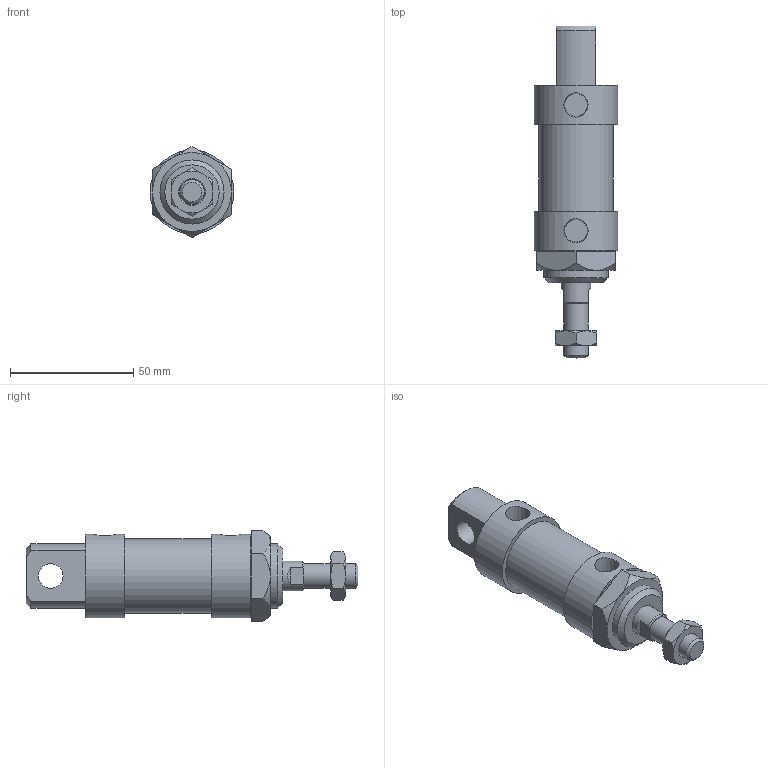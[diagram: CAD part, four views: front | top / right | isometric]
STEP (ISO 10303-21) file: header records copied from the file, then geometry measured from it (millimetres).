
FILE_DESCRIPTION(/* description */ ('Unknown'),/* implementation_level */ '2;1');
FILE_NAME(/* name */ 'WK25-SD',/* time_stamp */ '2026-07-17T16:31:28+08:00',/* author */ ('Unknown'),/* organization */ ('Unknown'),/* preprocessor_version */ 'ST-DEVELOPER v16.7',/* originating_system */ 'DEX',/* authorisation */ $);
FILE_SCHEMA (('CONFIG_CONTROL_DESIGN'));
Length unit declared in the file: millimetre
Products named in the file (7): WK25-SD; WK25_前; WK25_､ﾟｶbｬ｡_;m^XD}; WK25_鋁; WK25_SD; M10-1.25P-6_螺; M26-1.5P-8_螺
Assembly tree (6 placements, depth 2):
  WK25-SD
    WK25_前
    WK25_､ﾟｶbｬ｡_;m^XD}
    WK25_鋁
    WK25_SD
    M10-1.25P-6_螺
    M26-1.5P-8_螺
Bounding box: 34 x 134.5 x 36.95 mm (x, y, z)
Volume: 75538.1 mm3; surface area: 27463.6 mm2
Topology: 6 solids, 6 shells, 95 faces, 202 edges, 126 vertices
Faces by surface type: plane 45, cone 33, cylinder 17
Full cylindrical faces by diameter (mm): 8.75 x1, 10 x2, 12 x2, 24.5 x2, 25 x1, 26 x1, 27 x2, 30 x1, 32 x1, 34 x2
Entity records: 3204 total; most frequent: CARTESIAN_POINT 568, DIRECTION 398, ORIENTED_EDGE 328, AXIS2_PLACEMENT_3D 178, EDGE_CURVE 164, EDGE_LOOP 138, FACE_BOUND 138, VERTEX_POINT 114
